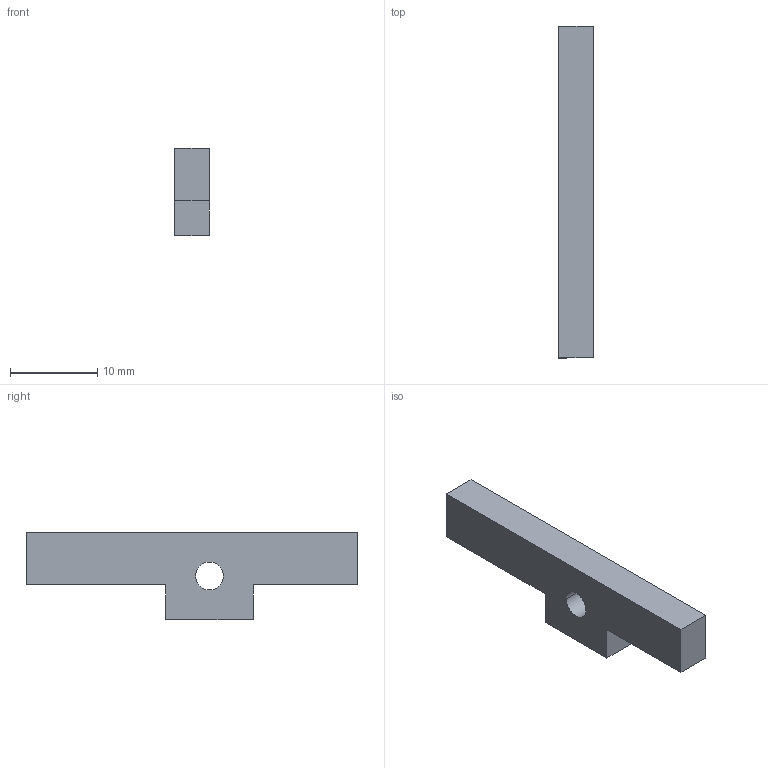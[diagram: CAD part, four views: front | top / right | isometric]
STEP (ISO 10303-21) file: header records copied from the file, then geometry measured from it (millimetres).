
FILE_DESCRIPTION(('STEP AP214'),'1');
FILE_NAME('tmp0.step','2025-04-19T20:59:10',(' '),(' '),'Spatial InterOp 3D',' ',' ');
FILE_SCHEMA(('AUTOMOTIVE_DESIGN { 1 0 10303 214 1 1 1 1 }'));
Length unit declared in the file: millimetre
Products named in the file (1): 1
Bounding box: 4 x 38 x 10 mm (x, y, z)
Volume: 1039.8 mm3; surface area: 944.1 mm2
Topology: 1 solids, 1 shells, 12 faces, 30 edges, 20 vertices
Faces by surface type: plane 10, cylinder 2
Entity records: 387 total; most frequent: CARTESIAN_POINT 63, DIRECTION 60, ORIENTED_EDGE 60, EDGE_CURVE 30, LINE 26, VECTOR 26, VERTEX_POINT 20, AXIS2_PLACEMENT_3D 17
